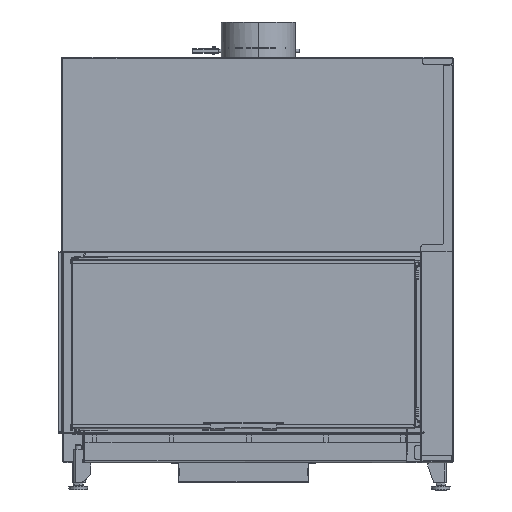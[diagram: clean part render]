
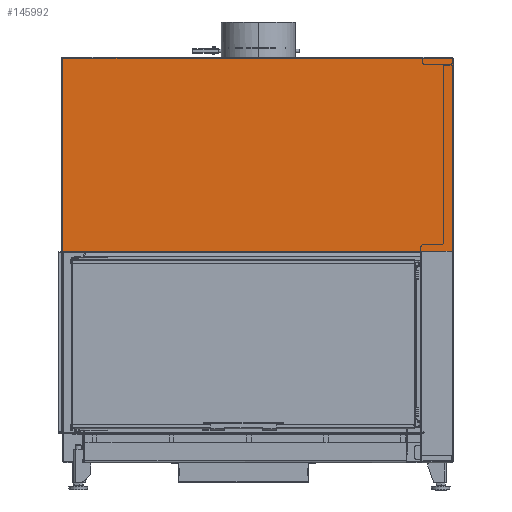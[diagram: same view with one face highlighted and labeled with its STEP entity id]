
A CAD part, front view. The second image highlights one B-rep face of the part: STEP entity #145992.
In plain terms, the highlighted planar face has unit normal (0, -1, 0).
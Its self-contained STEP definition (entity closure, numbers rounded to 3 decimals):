
#6911=CIRCLE('',#156823,0.1);
#6913=CIRCLE('',#156828,3.);
#7208=CIRCLE('',#157449,3.);
#15104=FACE_OUTER_BOUND('',#23151,.T.);
#23151=EDGE_LOOP('',(#111255,#111256,#111257,#111258,#111259,#111260,#111261,
#111262,#111263,#111264,#111265));
#34409=LINE('',#229319,#48030);
#34413=LINE('',#229328,#48034);
#34415=LINE('',#229332,#48036);
#35102=LINE('',#231843,#48723);
#35110=LINE('',#231860,#48731);
#35111=LINE('',#231863,#48732);
#35112=LINE('',#231865,#48733);
#35113=LINE('',#231866,#48734);
#48030=VECTOR('',#185508,10.);
#48034=VECTOR('',#185518,10.);
#48036=VECTOR('',#185522,10.);
#48723=VECTOR('',#187451,10.);
#48731=VECTOR('',#187463,10.);
#48732=VECTOR('',#187466,10.);
#48733=VECTOR('',#187467,10.);
#48734=VECTOR('',#187468,10.);
#60699=VERTEX_POINT('',#229316);
#60700=VERTEX_POINT('',#229318);
#60701=VERTEX_POINT('',#229322);
#60702=VERTEX_POINT('',#229326);
#60703=VERTEX_POINT('',#229330);
#60705=VERTEX_POINT('',#229336);
#61380=VERTEX_POINT('',#231840);
#61381=VERTEX_POINT('',#231842);
#61388=VERTEX_POINT('',#231859);
#61389=VERTEX_POINT('',#231862);
#61390=VERTEX_POINT('',#231864);
#77795=EDGE_CURVE('',#60699,#60700,#34409,.T.);
#77798=EDGE_CURVE('',#60701,#60699,#6911,.T.);
#77800=EDGE_CURVE('',#60702,#60701,#34413,.T.);
#77802=EDGE_CURVE('',#60703,#60702,#34415,.T.);
#77805=EDGE_CURVE('',#60703,#60705,#6913,.T.);
#78816=EDGE_CURVE('',#61380,#61381,#35102,.T.);
#78824=EDGE_CURVE('',#61388,#60705,#35110,.T.);
#78825=EDGE_CURVE('',#61388,#61381,#7208,.T.);
#78826=EDGE_CURVE('',#61389,#61380,#35111,.T.);
#78827=EDGE_CURVE('',#61390,#61389,#35112,.T.);
#78828=EDGE_CURVE('',#60700,#61390,#35113,.T.);
#111255=ORIENTED_EDGE('',*,*,#77805,.T.);
#111256=ORIENTED_EDGE('',*,*,#78824,.F.);
#111257=ORIENTED_EDGE('',*,*,#78825,.T.);
#111258=ORIENTED_EDGE('',*,*,#78816,.F.);
#111259=ORIENTED_EDGE('',*,*,#78826,.F.);
#111260=ORIENTED_EDGE('',*,*,#78827,.F.);
#111261=ORIENTED_EDGE('',*,*,#78828,.F.);
#111262=ORIENTED_EDGE('',*,*,#77795,.F.);
#111263=ORIENTED_EDGE('',*,*,#77798,.F.);
#111264=ORIENTED_EDGE('',*,*,#77800,.F.);
#111265=ORIENTED_EDGE('',*,*,#77802,.F.);
#131768=PLANE('',#157448);
#145992=ADVANCED_FACE('',(#15104),#131768,.F.);
#156823=AXIS2_PLACEMENT_3D('',#229324,#185513,#185514);
#156828=AXIS2_PLACEMENT_3D('',#229338,#185528,#185529);
#157448=AXIS2_PLACEMENT_3D('',#231858,#187461,#187462);
#157449=AXIS2_PLACEMENT_3D('',#231861,#187464,#187465);
#185508=DIRECTION('',(0.,0.,-1.));
#185513=DIRECTION('center_axis',(0.,-1.,
0.));
#185514=DIRECTION('ref_axis',(-1.,0.,0.));
#185518=DIRECTION('',(0.,0.,1.));
#185522=DIRECTION('',(-1.,0.,0.));
#185528=DIRECTION('center_axis',(0.,-1.,
0.));
#185529=DIRECTION('ref_axis',(0.707,0.,-0.707));
#187451=DIRECTION('',(1.,0.,0.));
#187461=DIRECTION('center_axis',(0.,1.,
0.));
#187462=DIRECTION('ref_axis',(-1.,0.,0.));
#187463=DIRECTION('',(0.,0.,-1.));
#187464=DIRECTION('center_axis',(0.,-1.,
0.));
#187465=DIRECTION('ref_axis',(0.707,0.,0.707));
#187466=DIRECTION('',(1.,0.,0.));
#187467=DIRECTION('',(0.,0.,1.));
#187468=DIRECTION('',(-1.,0.,0.));
#229316=CARTESIAN_POINT('',(-87.4,-59.983,582.359));
#229318=CARTESIAN_POINT('',(-87.4,-59.983,582.259));
#229319=CARTESIAN_POINT('',(-87.4,-59.979,715.947));
#229322=CARTESIAN_POINT('',(-87.2,-59.983,582.359));
#229324=CARTESIAN_POINT('Origin',(-87.3,-59.983,582.359));
#229326=CARTESIAN_POINT('',(-87.2,-59.983,582.259));
#229328=CARTESIAN_POINT('',(-87.2,-59.979,715.997));
#229330=CARTESIAN_POINT('',(-3.,-59.983,582.259));
#229332=CARTESIAN_POINT('',(0.,-59.983,582.259));
#229336=CARTESIAN_POINT('',(0.,-59.983,585.259));
#229338=CARTESIAN_POINT('Origin',(-3.,-59.983,585.259));
#231840=CARTESIAN_POINT('',(-84.15,-59.968,1114.259));
#231842=CARTESIAN_POINT('',(-3.,-59.968,1114.259));
#231843=CARTESIAN_POINT('',(-84.15,-59.968,1114.259));
#231858=CARTESIAN_POINT('Origin',(-580.775,-59.975,849.634));
#231859=CARTESIAN_POINT('',(0.,-59.968,1111.259));
#231860=CARTESIAN_POINT('',(0.,-59.968,1114.259));
#231861=CARTESIAN_POINT('Origin',(-3.,-59.968,1111.259));
#231862=CARTESIAN_POINT('',(-1074.65,-59.968,1114.259));
#231863=CARTESIAN_POINT('',(-829.088,-59.968,1114.259));
#231864=CARTESIAN_POINT('',(-1074.65,-59.983,582.259));
#231865=CARTESIAN_POINT('',(-1074.65,-59.979,715.947));
#231866=CARTESIAN_POINT('',(0.,-59.983,582.259));
